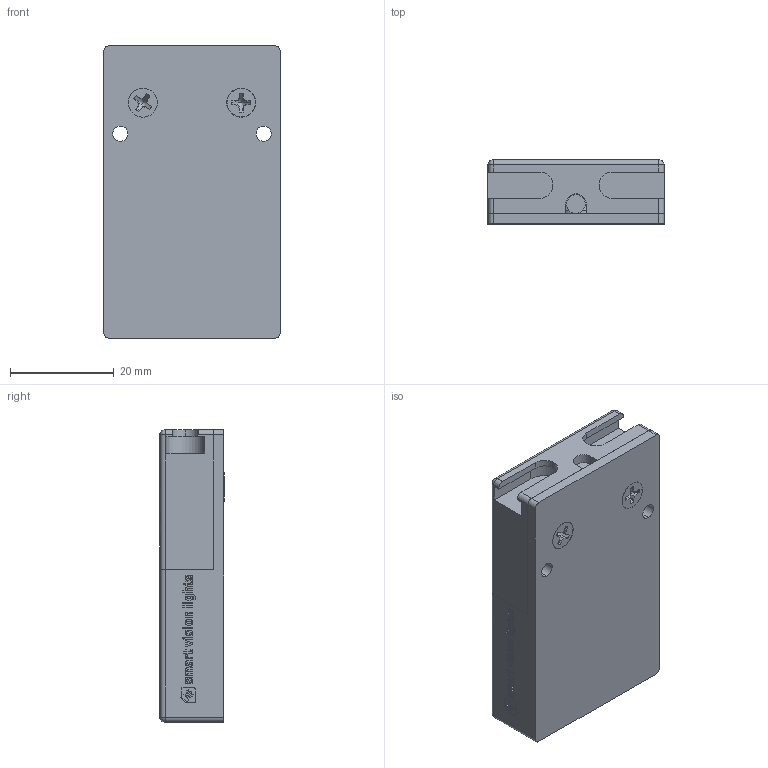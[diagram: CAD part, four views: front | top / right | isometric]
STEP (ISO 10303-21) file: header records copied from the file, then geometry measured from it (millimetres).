
FILE_DESCRIPTION (( 'STEP AP214' ), '1' );
FILE_NAME ('MINI BACKLIGHT ASY 25x25.STEP', '2023-02-28T15:00:15', ( '' ), ( '' ), 'SwSTEP 2.0', 'SolidWorks 2023', '' );
FILE_SCHEMA (( 'AUTOMOTIVE_DESIGN' ));
Length unit declared in the file: millimetre
Products named in the file (13): MINI BACKLIGHT HOUSING REV16_25X25; MINI BACKLIGHT ASY 25x25; BMP0001_BMP0001; DIFFUSER ASY_25X25; LED BRD LIGHT TAPE_25X25; MINI BACKLIGHT ENDCAP REV16_25X25; LED BRD ASY_25x25; CABLE_CABLE; MBL LED BRD SIMPLE_25X25; .02in VELVET MATTE FILM_25X25; SC0069_SC0069; LED BRD ADHESIVE_25X25; .118in DIFFUSER_25X25
Assembly tree (13 placements, depth 3):
  MINI BACKLIGHT ASY 25x25
    MINI BACKLIGHT HOUSING REV16_25X25
    LED BRD ASY_25x25
      MBL LED BRD SIMPLE_25X25
      LED BRD LIGHT TAPE_25X25
      LED BRD ADHESIVE_25X25
    DIFFUSER ASY_25X25
      .118in DIFFUSER_25X25
      .02in VELVET MATTE FILM_25X25
    BMP0001_BMP0001
    CABLE_CABLE
    MINI BACKLIGHT ENDCAP REV16_25X25
    SC0069_SC0069  x2
Bounding box: 34 x 12.4 x 56.5 mm (x, y, z)
Volume: 16644.1 mm3; surface area: 19585.8 mm2
Topology: 11 solids, 11 shells, 1268 faces, 3464 edges, 2289 vertices
Faces by surface type: plane 656, bspline 290, cylinder 274, cone 42, sphere 4, torus 2
Entity records: 51515 total; most frequent: CARTESIAN_POINT 21659, ORIENTED_EDGE 6508, DIRECTION 4886, EDGE_CURVE 3254, VERTEX_POINT 2160, VECTOR 2130, LINE 2130, AXIS2_PLACEMENT_3D 1378
